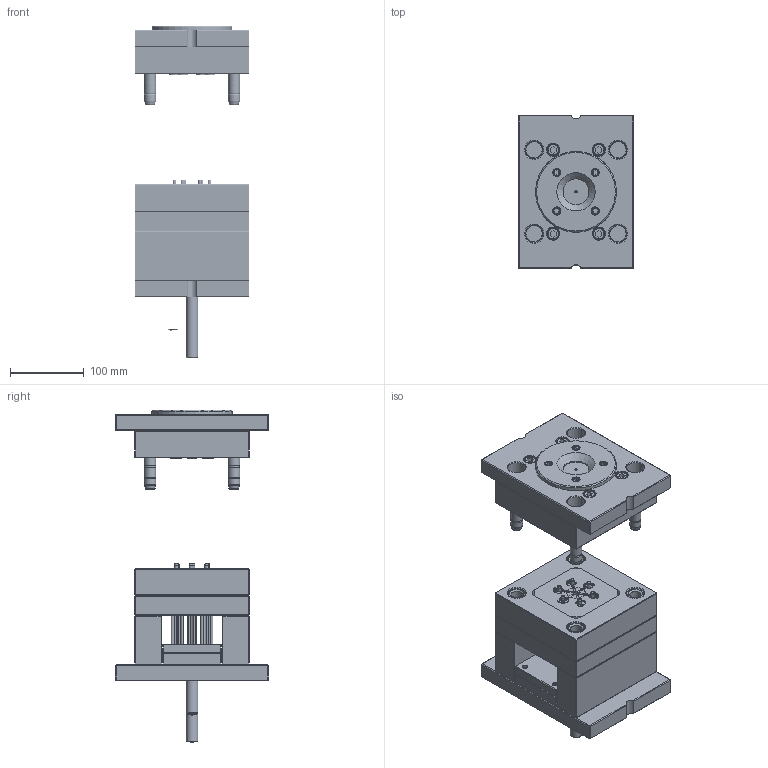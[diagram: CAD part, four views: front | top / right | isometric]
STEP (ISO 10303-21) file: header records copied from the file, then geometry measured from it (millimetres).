
FILE_DESCRIPTION((''),'2;1');
FILE_NAME('E:\Formulaire-2014-01-15 pour envoi\etudeMoulage\moule complet -corrigé\Assemblage TD2.stp','2014-05-24T15:53:57',('DF'),(''),'Autodesk Inventor 2013','Autodesk Inventor 2013','');
FILE_SCHEMA(('AUTOMOTIVE_DESIGN { 1 0 10303 214 1 1 1 1 }'));
Length unit declared in the file: millimetre
Products named in the file (35): Assemblage TD2; BF_plaque_H5; BF_buse_injection; BF_plaque_H1; BF_colonne_Z62_15; BF_colonne_Z62_16; chc 10x25; chc 6x30; BF_bague_Z10_110; chc 6x16; BF_empreinte_fixe10; BM_plaque_H6; BM_bague_guidage_Z81; BM_plaque_H3; BE_plaque_H8; BE_éjecteur carotte; BE_plaque_H7; BE_queue_ejection; chc 8x16; BM_plaque_H2; BM_bague_Z75; BM_bague_Z76; BM_plaque_H4; chc 10x120; BM_bague autolubrifiante; BM_empreinteMobileFinie; arrache_carotte; goupille indexage; noyau5; ejecteur2; ejecteur3; noyauFini; rondelle_arret_noyau ; ISO 10642 M4 x  12; support_curseur_moulage_chaud
Assembly tree (110 placements, depth 2):
  Assemblage TD2
    BF_plaque_H5
    BF_buse_injection
    BF_plaque_H1
    BF_colonne_Z62_15
    BF_colonne_Z62_16  x3
    chc 10x25  x4
    chc 6x30  x8
    BF_bague_Z10_110
    chc 6x16  x4
    BF_empreinte_fixe10
    BM_plaque_H6
    BM_bague_guidage_Z81  x4
    BM_plaque_H3  x2
    BE_plaque_H8
    BE_éjecteur carotte
    BE_plaque_H7
    BE_queue_ejection
    chc 8x16  x4
    BM_plaque_H2
    BM_bague_Z75
    BM_bague_Z76  x3
    BM_plaque_H4
    chc 10x120  x4
    BM_bague autolubrifiante
    BM_empreinteMobileFinie
    arrache_carotte
    goupille indexage
    noyau5  x6
    ejecteur2  x24
    ejecteur3  x6
    noyauFini  x6
    rondelle_arret_noyau   x6
    ISO 10642 M4 x  12  x6
    support_curseur_moulage_chaud  x2
Bounding box: 156 x 208 x 451.2 mm (x, y, z)
Volume: 4841144.5 mm3; surface area: 895497.1 mm2
Topology: 110 solids, 114 shells, 2195 faces, 4679 edges, 2913 vertices
Faces by surface type: plane 1006, cylinder 797, cone 318, torus 48, sphere 18, bspline 8
Full cylindrical faces by diameter (mm): 1 x16, 1.92 x8, 2 x48, 2.3 x24, 2.5 x48, 3 x12, 3.242 x6, 3.5 x7, 3.99 x1, 4 x31, 4.5 x12, 4.917 x4, 5 x50, 5.35 x8, 5.5 x12, 5.9 x8, 6 x12, 6.5 x12, 6.647 x4, 7.53 x6, 8 x12, 8.376 x14, 8.5 x5, 9 x11, 10 x12, 10.106 x1, 11 x28, 12 x1, 13 x4, 13.9 x1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
Entity records: 37069 total; most frequent: CARTESIAN_POINT 7027, DIRECTION 6486, ORIENTED_EDGE 4588, AXIS2_PLACEMENT_3D 2786, EDGE_LOOP 2417, EDGE_CURVE 2294, VERTEX_POINT 1749, FACE_OUTER_BOUND 1328
